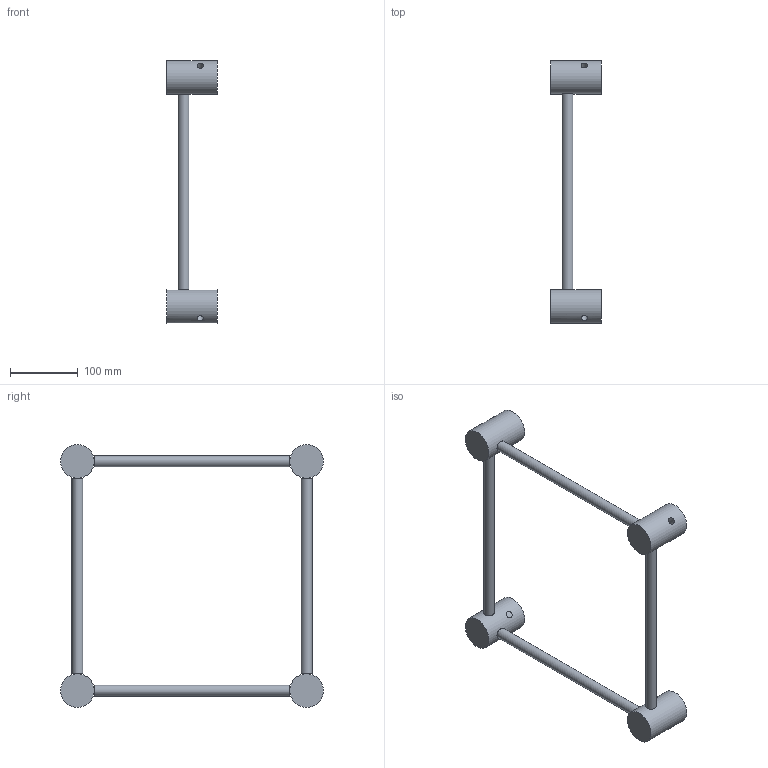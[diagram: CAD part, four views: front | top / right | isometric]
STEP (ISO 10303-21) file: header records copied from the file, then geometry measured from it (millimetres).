
FILE_DESCRIPTION(/* description */ (''),/* implementation_level */ '2;1');
FILE_NAME(/* name */ 'M:\Symbolen_NIEUW\STP\Boxcorner\111130029.stp',/* time_stamp */ '2015-12-01T11:48:38+01:00',/* author */ ('Stephan'),/* organization */ (''),/* preprocessor_version */ 'ST-DEVELOPER v15.6',/* originating_system */ 'Autodesk Inventor 2015',/* authorisation */ '');
FILE_SCHEMA (('AUTOMOTIVE_DESIGN { 1 0 10303 214 3 1 1 }'));
Length unit declared in the file: millimetre
Products named in the file (1): 160018250
Bounding box: 75 x 388.31 x 388.31 mm (x, y, z)
Volume: 329028.1 mm3; surface area: 128020.5 mm2
Topology: 4 solids, 8 shells, 40 faces, 64 edges, 40 vertices
Faces by surface type: plane 24, cylinder 16
Full cylindrical faces by diameter (mm): 10 x4, 16 x4, 49.5 x4
Entity records: 1151 total; most frequent: CARTESIAN_POINT 405, DIRECTION 130, ORIENTED_EDGE 112, EDGE_LOOP 64, AXIS2_PLACEMENT_3D 61, EDGE_CURVE 48, VERTEX_POINT 40, STYLED_ITEM 37
